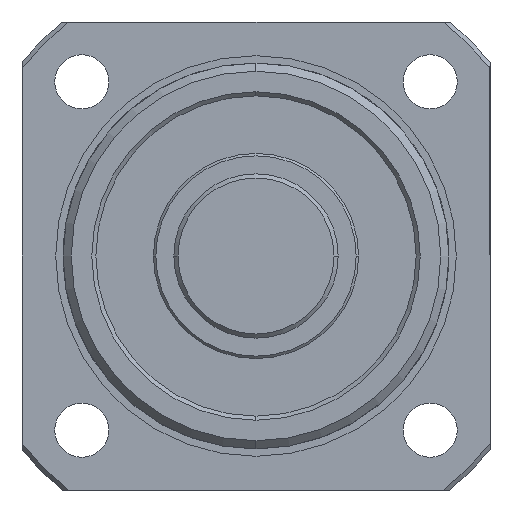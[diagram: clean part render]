
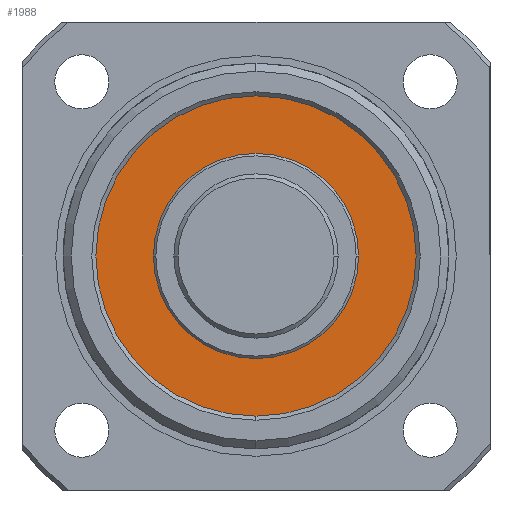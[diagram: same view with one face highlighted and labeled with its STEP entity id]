
A CAD part, left-side view. The second image highlights one B-rep face of the part: STEP entity #1988.
In plain terms, the highlighted planar face has unit normal (-1, 0, 0).
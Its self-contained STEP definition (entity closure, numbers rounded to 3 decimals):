
#184 = CIRCLE ( 'NONE', #2400, 19.5 ) ;
#205 = CIRCLE ( 'NONE', #3419, 12.5 ) ;
#233 = VERTEX_POINT ( 'NONE', #3282 ) ;
#352 = ORIENTED_EDGE ( 'NONE', *, *, #974, .F. ) ;
#353 = ORIENTED_EDGE ( 'NONE', *, *, #2730, .F. ) ;
#354 = ORIENTED_EDGE ( 'NONE', *, *, #2698, .T. ) ;
#355 = ORIENTED_EDGE ( 'NONE', *, *, #1090, .T. ) ;
#544 = CARTESIAN_POINT ( 'NONE',  ( -47.5, 0., 0. ) ) ;
#545 = DIRECTION ( 'NONE',  ( -1., 0., 0. ) ) ;
#546 = DIRECTION ( 'NONE',  ( 0., -1., 0. ) ) ;
#974 = EDGE_CURVE ( 'NONE', #233, #1897, #4610, .T. ) ;
#1090 = EDGE_CURVE ( 'NONE', #1936, #1905, #4763, .T. ) ;
#1897 = VERTEX_POINT ( 'NONE', #2481 ) ;
#1905 = VERTEX_POINT ( 'NONE', #2479 ) ;
#1936 = VERTEX_POINT ( 'NONE', #2450 ) ;
#1988 = ADVANCED_FACE ( 'NONE', ( #3953, #3956 ), #2220, .T. ) ;
#2149 = AXIS2_PLACEMENT_3D ( 'NONE', #2225, #2229, #2216 ) ;
#2216 = DIRECTION ( 'NONE',  ( 0., -1., 0. ) ) ;
#2220 = PLANE ( 'NONE',  #2149 ) ;
#2225 = CARTESIAN_POINT ( 'NONE',  ( -47.5, 0., 0. ) ) ;
#2229 = DIRECTION ( 'NONE',  ( -1., 0., 0. ) ) ;
#2400 = AXIS2_PLACEMENT_3D ( 'NONE', #544, #545, #546 ) ;
#2450 = CARTESIAN_POINT ( 'NONE',  ( -47.5, 0., -19.5 ) ) ;
#2479 = CARTESIAN_POINT ( 'NONE',  ( -47.5, 0., 19.5 ) ) ;
#2481 = CARTESIAN_POINT ( 'NONE',  ( -47.5, 0., 12.5 ) ) ;
#2698 = EDGE_CURVE ( 'NONE', #1905, #1936, #184, .T. ) ;
#2730 = EDGE_CURVE ( 'NONE', #1897, #233, #205, .T. ) ;
#2791 = AXIS2_PLACEMENT_3D ( 'NONE', #3514, #3513, #3512 ) ;
#2856 = AXIS2_PLACEMENT_3D ( 'NONE', #3892, #3891, #3888 ) ;
#3282 = CARTESIAN_POINT ( 'NONE',  ( -47.5, 0., -12.5 ) ) ;
#3419 = AXIS2_PLACEMENT_3D ( 'NONE', #5283, #5284, #5285 ) ;
#3512 = DIRECTION ( 'NONE',  ( 0., -1., 0. ) ) ;
#3513 = DIRECTION ( 'NONE',  ( -1., 0., 0. ) ) ;
#3514 = CARTESIAN_POINT ( 'NONE',  ( -47.5, 0., 0. ) ) ;
#3888 = DIRECTION ( 'NONE',  ( 0., -1., 0. ) ) ;
#3891 = DIRECTION ( 'NONE',  ( -1., 0., 0. ) ) ;
#3892 = CARTESIAN_POINT ( 'NONE',  ( -47.5, 0., 0. ) ) ;
#3953 = FACE_BOUND ( 'NONE', #4930, .T. ) ;
#3956 = FACE_OUTER_BOUND ( 'NONE', #4935, .T. ) ;
#4610 = CIRCLE ( 'NONE', #2791, 12.5 ) ;
#4763 = CIRCLE ( 'NONE', #2856, 19.5 ) ;
#4930 = EDGE_LOOP ( 'NONE', ( #352, #353 ) ) ;
#4935 = EDGE_LOOP ( 'NONE', ( #354, #355 ) ) ;
#5283 = CARTESIAN_POINT ( 'NONE',  ( -47.5, 0., 0. ) ) ;
#5284 = DIRECTION ( 'NONE',  ( -1., 0., 0. ) ) ;
#5285 = DIRECTION ( 'NONE',  ( 0., -1., 0. ) ) ;
